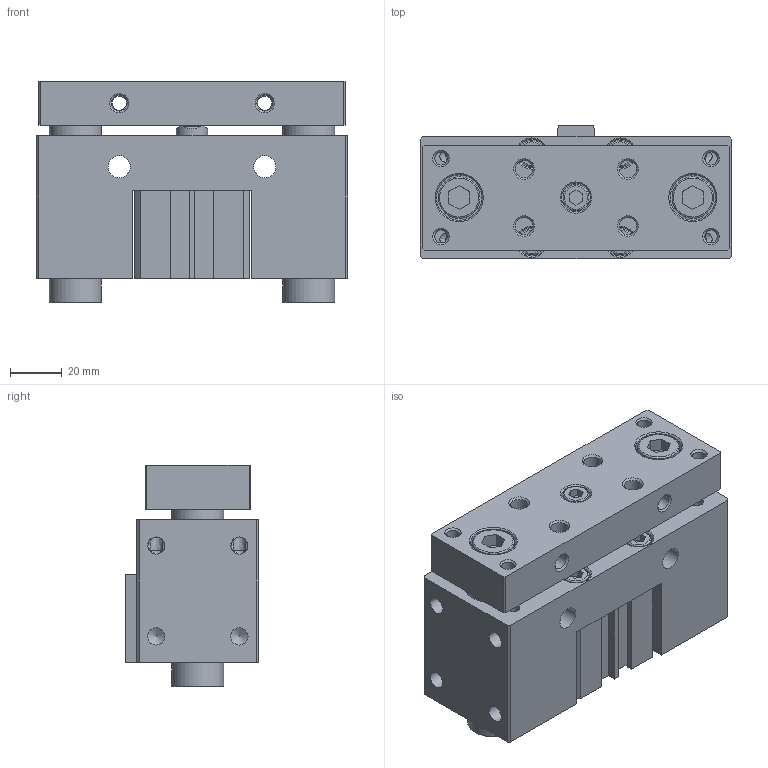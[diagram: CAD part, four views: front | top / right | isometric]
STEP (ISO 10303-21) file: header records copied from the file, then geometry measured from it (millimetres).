
FILE_DESCRIPTION((''),'2;1');
FILE_NAME('I:\3D電子目錄\氣缸\JCB\JCB\JCB32\JCB32x10.stp','2007-08-21T20:24:01',('Administrator'),(''),'Autodesk Inventor 11','Autodesk Inventor 11','');
FILE_SCHEMA(('AUTOMOTIVE_DESIGN { 1 0 10303 214 1 1 1 1 }'));
Length unit declared in the file: millimetre
Products named in the file (1): JCB32
Bounding box: 120 x 51.5 x 85.4 mm (x, y, z)
Volume: 350424.6 mm3; surface area: 88432.6 mm2
Topology: 3 solids, 3 shells, 320 faces, 754 edges, 489 vertices
Faces by surface type: plane 173, cylinder 53, bspline 45, cone 41, torus 8
Full cylindrical faces by diameter (mm): 2.2 x1, 5.1 x4, 6 x2, 6.647 x4, 8 x8, 10 x5, 11 x5, 12 x1, 13 x1, 16 x2, 17.5 x2, 20 x2, 22 x1, 23 x3, 34 x4, 36 x2
Entity records: 9272 total; most frequent: CARTESIAN_POINT 2540, DIRECTION 1340, ORIENTED_EDGE 1192, EDGE_CURVE 596, EDGE_LOOP 534, AXIS2_PLACEMENT_3D 492, VERTEX_POINT 458, VECTOR 356
